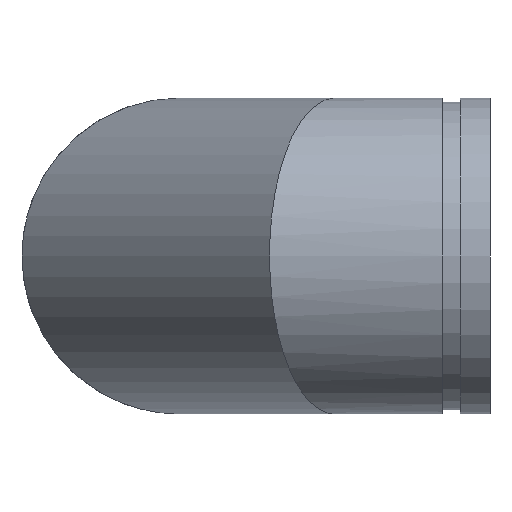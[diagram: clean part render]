
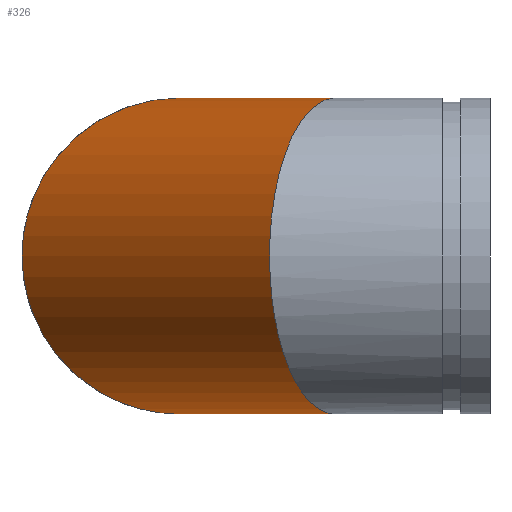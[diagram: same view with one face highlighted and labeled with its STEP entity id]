
A CAD part, left-side view. The second image highlights one B-rep face of the part: STEP entity #326.
In plain terms, the highlighted cylindrical face has radius 84.138 mm (diameter 168.275 mm), a full revolution.
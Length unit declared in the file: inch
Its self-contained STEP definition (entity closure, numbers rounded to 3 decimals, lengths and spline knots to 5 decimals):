
#51=ELLIPSE('',#383,3.58542,3.3125);
#52=ELLIPSE('',#384,3.58542,3.3125);
#53=ELLIPSE('',#385,3.58542,3.3125);
#54=ELLIPSE('',#388,3.58542,3.3125);
#55=ELLIPSE('',#389,3.58542,3.3125);
#56=ELLIPSE('',#390,3.58542,3.3125);
#82=FACE_OUTER_BOUND('',#103,.T.);
#103=EDGE_LOOP('',(#269,#270,#271,#272,#273,#274,#275,#276));
#115=LINE('',#606,#125);
#125=VECTOR('',#494,3.3125);
#165=VERTEX_POINT('',#596);
#166=VERTEX_POINT('',#598);
#167=VERTEX_POINT('',#600);
#168=VERTEX_POINT('',#605);
#169=VERTEX_POINT('',#607);
#170=VERTEX_POINT('',#609);
#201=EDGE_CURVE('',#165,#166,#51,.T.);
#202=EDGE_CURVE('',#167,#166,#52,.T.);
#203=EDGE_CURVE('',#167,#165,#53,.T.);
#204=EDGE_CURVE('',#165,#168,#115,.T.);
#205=EDGE_CURVE('',#168,#169,#54,.T.);
#206=EDGE_CURVE('',#170,#169,#55,.T.);
#207=EDGE_CURVE('',#170,#168,#56,.T.);
#269=ORIENTED_EDGE('',*,*,#203,.F.);
#270=ORIENTED_EDGE('',*,*,#202,.T.);
#271=ORIENTED_EDGE('',*,*,#201,.F.);
#272=ORIENTED_EDGE('',*,*,#204,.T.);
#273=ORIENTED_EDGE('',*,*,#205,.T.);
#274=ORIENTED_EDGE('',*,*,#206,.F.);
#275=ORIENTED_EDGE('',*,*,#207,.T.);
#276=ORIENTED_EDGE('',*,*,#204,.F.);
#293=CYLINDRICAL_SURFACE('',#387,3.3125);
#326=ADVANCED_FACE('',(#82),#293,.T.);
#383=AXIS2_PLACEMENT_3D('',#599,#484,#485);
#384=AXIS2_PLACEMENT_3D('',#601,#486,#487);
#385=AXIS2_PLACEMENT_3D('',#602,#488,#489);
#387=AXIS2_PLACEMENT_3D('',#604,#492,#493);
#388=AXIS2_PLACEMENT_3D('',#608,#495,#496);
#389=AXIS2_PLACEMENT_3D('',#610,#497,#498);
#390=AXIS2_PLACEMENT_3D('',#611,#499,#500);
#484=DIRECTION('center_axis',(-0.383,-0.924,0.));
#485=DIRECTION('ref_axis',(0.924,-0.383,0.));
#486=DIRECTION('center_axis',(0.383,0.924,0.));
#487=DIRECTION('ref_axis',(0.924,-0.383,0.));
#488=DIRECTION('center_axis',(-0.383,-0.924,0.));
#489=DIRECTION('ref_axis',(0.924,-0.383,0.));
#492=DIRECTION('center_axis',(-0.707,-0.707,0.));
#493=DIRECTION('ref_axis',(0.707,-0.707,0.));
#494=DIRECTION('',(0.707,0.707,0.));
#495=DIRECTION('center_axis',(-0.924,-0.383,0.));
#496=DIRECTION('ref_axis',(0.383,-0.924,0.));
#497=DIRECTION('center_axis',(0.924,0.383,0.));
#498=DIRECTION('ref_axis',(0.383,-0.924,0.));
#499=DIRECTION('center_axis',(-0.924,-0.383,0.));
#500=DIRECTION('ref_axis',(0.383,-0.924,0.));
#596=CARTESIAN_POINT('',(-3.3125,-1.87792,0.));
#598=CARTESIAN_POINT('',(0.,-3.25,-3.3125));
#599=CARTESIAN_POINT('Origin',(0.,-3.25,0.));
#600=CARTESIAN_POINT('',(0.,-3.25,3.3125));
#601=CARTESIAN_POINT('Origin',(0.,-3.25,0.));
#602=CARTESIAN_POINT('Origin',(0.,-3.25,0.));
#604=CARTESIAN_POINT('Origin',(3.25,0.,0.));
#605=CARTESIAN_POINT('',(1.87792,3.3125,0.));
#606=CARTESIAN_POINT('',(0.90771,2.34229,0.));
#607=CARTESIAN_POINT('',(3.25,0.,-3.3125));
#608=CARTESIAN_POINT('Origin',(3.25,0.,0.));
#609=CARTESIAN_POINT('',(3.25,0.,3.3125));
#610=CARTESIAN_POINT('Origin',(3.25,0.,0.));
#611=CARTESIAN_POINT('Origin',(3.25,0.,0.));
